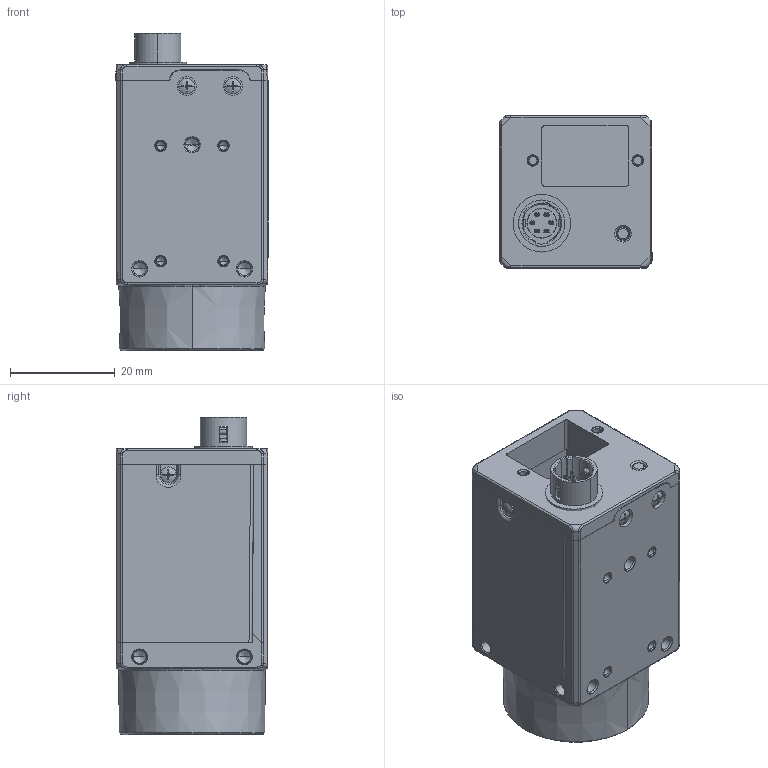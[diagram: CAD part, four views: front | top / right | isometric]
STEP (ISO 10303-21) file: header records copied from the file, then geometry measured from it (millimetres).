
FILE_DESCRIPTION((''),'2;1');
FILE_NAME('CS120-10GMV5_ASM','2024-12-26T10:53:10',('zhangqianwen8'),(''),'CREO PARAMETRIC BY PTC INC, 2020044','CREO PARAMETRIC BY PTC INC, 2020044','');
FILE_SCHEMA(('CONFIG_CONTROL_DESIGN'));
Products named in the file (15): DE-13-001130; DE-18-000045; DE-17-000054; DE-11-019131; DE-19-001087; FRONT-CS120-10GMV5_ASM; 101305700; MV-20546REV10-IO_ASM; MV-20546REV10-LAN_ASM; MV-20546-REV10_ASM; DE-11-012833-90; DE-13-000605; D-01-35-26-0837; SC-T1M2X3NL-B; CS120-10GMV5_ASM
Assembly tree (19 placements, depth 4):
  CS120-10GMV5_ASM
    FRONT-CS120-10GMV5_ASM
      DE-13-001130
      DE-18-000045
      DE-17-000054
      DE-11-019131
      DE-19-001087  x2
    MV-20546-REV10_ASM
      MV-20546REV10-IO_ASM
        101305700
      MV-20546REV10-LAN_ASM
    DE-11-012833-90
    DE-13-000605
    D-01-35-26-0837
    SC-T1M2X3NL-B  x5
Bounding box: 29.05 x 29 x 60.53 mm (x, y, z)
Volume: 30928.7 mm3; surface area: 25150.1 mm2
Topology: 19 solids, 79 shells, 2261 faces, 6009 edges, 3842 vertices
Faces by surface type: plane 890, cylinder 688, bspline 391, cone 174, torus 92, extrusion 15, sphere 11
Entity records: 88284 total; most frequent: CARTESIAN_POINT 41134, ORIENTED_EDGE 10660, DIRECTION 8275, EDGE_CURVE 5445, VERTEX_POINT 3529, AXIS2_PLACEMENT_3D 3016, VECTOR 2243, LINE 2228
